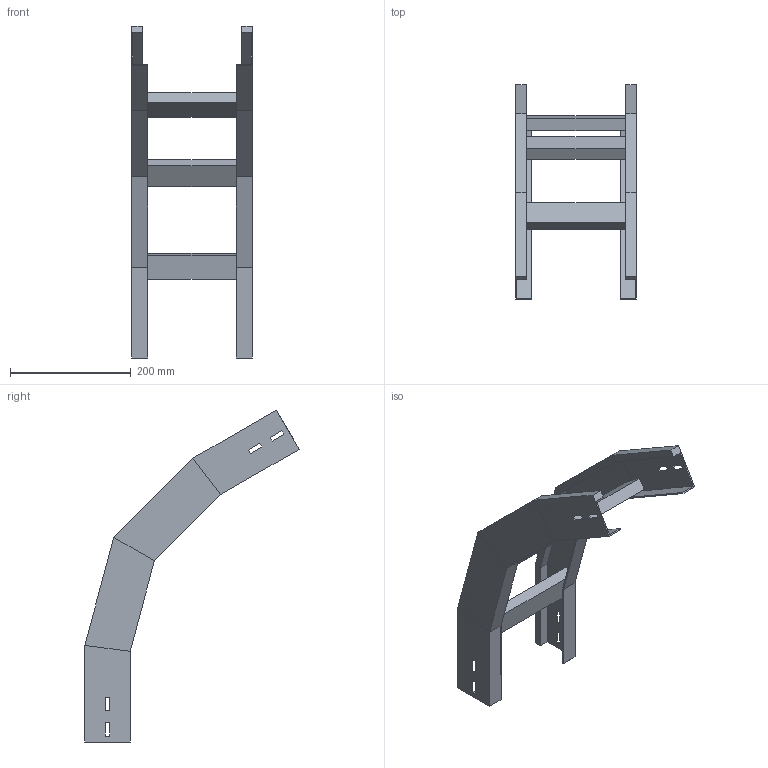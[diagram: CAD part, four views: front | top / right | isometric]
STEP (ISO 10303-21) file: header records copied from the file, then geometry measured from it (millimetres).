
FILE_DESCRIPTION (( 'STEP AP214' ), '1' );
FILE_NAME ('A2_41B3C200.step', '2025-02-21T14:59:53', ( '' ), ( '' ), 'SwSTEP 2.0', 'SolidWorks 2023', '' );
FILE_SCHEMA (( 'AUTOMOTIVE_DESIGN' ));
Length unit declared in the file: millimetre
Products named in the file (3): TRAVERSINO_200; LONGH.DISCESA_60°_H75_R300; A2_41B3C200
Assembly tree (5 placements, depth 2):
  A2_41B3C200
    LONGH.DISCESA_60°_H75_R300  x2
    TRAVERSINO_200  x3
Bounding box: 200 x 354.62 x 549.27 mm (x, y, z)
Volume: 992267.7 mm3; surface area: 381030.3 mm2
Topology: 5 solids, 5 shells, 118 faces, 276 edges, 168 vertices
Faces by surface type: plane 118
Entity records: 1672 total; most frequent: CARTESIAN_POINT 276, ORIENTED_EDGE 264, DIRECTION 260, EDGE_CURVE 132, VECTOR 132, LINE 132, VERTEX_POINT 80, AXIS2_PLACEMENT_3D 64
